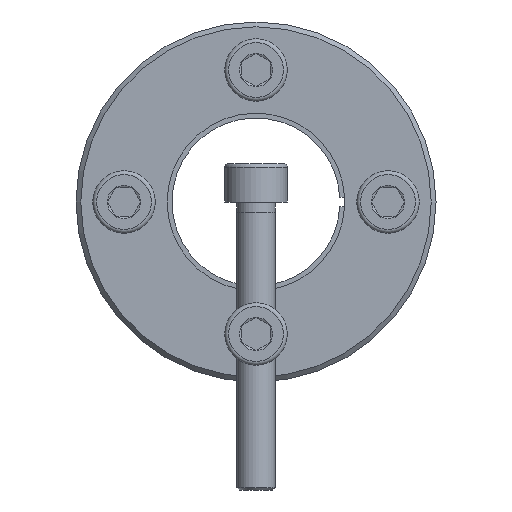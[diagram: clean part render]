
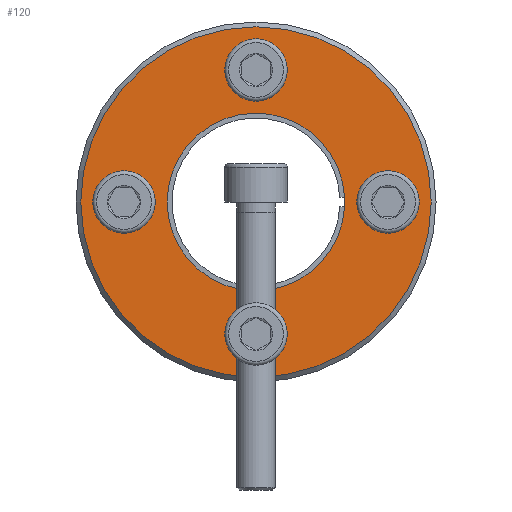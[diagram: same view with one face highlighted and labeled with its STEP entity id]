
A CAD part, front view. The second image highlights one B-rep face of the part: STEP entity #120.
In plain terms, the highlighted planar face has unit normal (0, -1, 0).
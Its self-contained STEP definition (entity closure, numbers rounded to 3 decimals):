
#120 = ADVANCED_FACE( '', ( #252, #253, #254, #255, #256, #257 ), #258, .F. );
#252 = FACE_OUTER_BOUND( '', #392, .T. );
#253 = FACE_BOUND( '', #393, .T. );
#254 = FACE_BOUND( '', #394, .T. );
#255 = FACE_BOUND( '', #395, .T. );
#256 = FACE_BOUND( '', #396, .T. );
#257 = FACE_BOUND( '', #397, .T. );
#258 = PLANE( '', #398 );
#392 = EDGE_LOOP( '', ( #650 ) );
#393 = EDGE_LOOP( '', ( #651 ) );
#394 = EDGE_LOOP( '', ( #652 ) );
#395 = EDGE_LOOP( '', ( #653 ) );
#396 = EDGE_LOOP( '', ( #654 ) );
#397 = EDGE_LOOP( '', ( #655, #656, #657, #658 ) );
#398 = AXIS2_PLACEMENT_3D( '', #659, #660, #661 );
#650 = ORIENTED_EDGE( '', *, *, #815, .T. );
#651 = ORIENTED_EDGE( '', *, *, #807, .T. );
#652 = ORIENTED_EDGE( '', *, *, #768, .T. );
#653 = ORIENTED_EDGE( '', *, *, #812, .T. );
#654 = ORIENTED_EDGE( '', *, *, #822, .T. );
#655 = ORIENTED_EDGE( '', *, *, #827, .F. );
#656 = ORIENTED_EDGE( '', *, *, #765, .T. );
#657 = ORIENTED_EDGE( '', *, *, #789, .T. );
#658 = ORIENTED_EDGE( '', *, *, #777, .F. );
#659 = CARTESIAN_POINT( '', ( 0., 0., 37.5 ) );
#660 = DIRECTION( '', ( 0., 1., 0. ) );
#661 = DIRECTION( '', ( 0., 0., 1. ) );
#765 = EDGE_CURVE( '', #909, #930, #932, .T. );
#768 = EDGE_CURVE( '', #936, #936, #937, .T. );
#777 = EDGE_CURVE( '', #950, #951, #952, .T. );
#789 = EDGE_CURVE( '', #930, #951, #972, .T. );
#807 = EDGE_CURVE( '', #996, #996, #997, .T. );
#812 = EDGE_CURVE( '', #1003, #1003, #1004, .T. );
#815 = EDGE_CURVE( '', #1008, #1008, #1009, .F. );
#822 = EDGE_CURVE( '', #1018, #1018, #1019, .T. );
#827 = EDGE_CURVE( '', #909, #950, #1024, .T. );
#909 = VERTEX_POINT( '', #1190 );
#930 = VERTEX_POINT( '', #1231 );
#932 = LINE( '', #1234, #1235 );
#936 = VERTEX_POINT( '', #1239 );
#937 = CIRCLE( '', #1240, 4. );
#950 = VERTEX_POINT( '', #1254 );
#951 = VERTEX_POINT( '', #1255 );
#952 = LINE( '', #1256, #1257 );
#972 = LINE( '', #1297, #1298 );
#996 = VERTEX_POINT( '', #1324 );
#997 = CIRCLE( '', #1325, 4. );
#1003 = VERTEX_POINT( '', #1331 );
#1004 = CIRCLE( '', #1332, 4. );
#1008 = VERTEX_POINT( '', #1336 );
#1009 = CIRCLE( '', #1337, 36.5 );
#1018 = VERTEX_POINT( '', #1347 );
#1019 = CIRCLE( '', #1348, 4. );
#1024 = CIRCLE( '', #1353, 18.5 );
#1190 = CARTESIAN_POINT( '', ( 18.473, 0., 1. ) );
#1231 = CARTESIAN_POINT( '', ( 18.5, 0., 1. ) );
#1234 = CARTESIAN_POINT( '', ( 0., 0., 1. ) );
#1235 = VECTOR( '', #1420, 1000. );
#1239 = CARTESIAN_POINT( '', ( -4., 0., -27.5 ) );
#1240 = AXIS2_PLACEMENT_3D( '', #1424, #1425, #1426 );
#1254 = CARTESIAN_POINT( '', ( 18.473, 0., -1. ) );
#1255 = CARTESIAN_POINT( '', ( 18.5, 0., -1. ) );
#1256 = CARTESIAN_POINT( '', ( 0., 0., -1. ) );
#1257 = VECTOR( '', #1440, 1000. );
#1297 = CARTESIAN_POINT( '', ( 18.5, 0., 1. ) );
#1298 = VECTOR( '', #1449, 1000. );
#1324 = CARTESIAN_POINT( '', ( -27.5, 0., 4. ) );
#1325 = AXIS2_PLACEMENT_3D( '', #1479, #1480, #1481 );
#1331 = CARTESIAN_POINT( '', ( 27.5, 0., -4. ) );
#1332 = AXIS2_PLACEMENT_3D( '', #1488, #1489, #1490 );
#1336 = CARTESIAN_POINT( '', ( 0., 0., 36.5 ) );
#1337 = AXIS2_PLACEMENT_3D( '', #1494, #1495, #1496 );
#1347 = CARTESIAN_POINT( '', ( 4., 0., 27.5 ) );
#1348 = AXIS2_PLACEMENT_3D( '', #1504, #1505, #1506 );
#1353 = AXIS2_PLACEMENT_3D( '', #1507, #1508, #1509 );
#1420 = DIRECTION( '', ( 1., 0., 0. ) );
#1424 = CARTESIAN_POINT( '', ( 0., 0., -27.5 ) );
#1425 = DIRECTION( '', ( 0., 1., 0. ) );
#1426 = DIRECTION( '', ( -1., 0., 0. ) );
#1440 = DIRECTION( '', ( 1., 0., 0. ) );
#1449 = DIRECTION( '', ( 0., 0., -1. ) );
#1479 = CARTESIAN_POINT( '', ( -27.5, 0., 0. ) );
#1480 = DIRECTION( '', ( 0., 1., 0. ) );
#1481 = DIRECTION( '', ( 0., 0., 1. ) );
#1488 = CARTESIAN_POINT( '', ( 27.5, 0., 0. ) );
#1489 = DIRECTION( '', ( 0., 1., 0. ) );
#1490 = DIRECTION( '', ( 0., 0., -1. ) );
#1494 = CARTESIAN_POINT( '', ( 0., 0., 0. ) );
#1495 = DIRECTION( '', ( 0., 1., 0. ) );
#1496 = DIRECTION( '', ( 0., 0., 1. ) );
#1504 = CARTESIAN_POINT( '', ( 0., 0., 27.5 ) );
#1505 = DIRECTION( '', ( 0., 1., 0. ) );
#1506 = DIRECTION( '', ( 1., 0., 0. ) );
#1507 = CARTESIAN_POINT( '', ( 0., 0., 0. ) );
#1508 = DIRECTION( '', ( 0., -1., 0. ) );
#1509 = DIRECTION( '', ( 0., 0., -1. ) );
